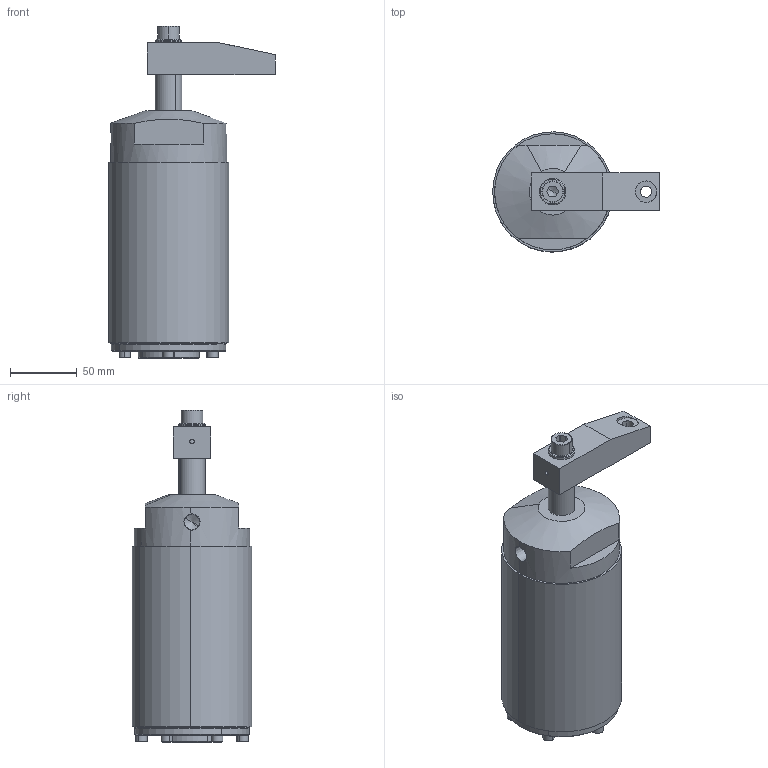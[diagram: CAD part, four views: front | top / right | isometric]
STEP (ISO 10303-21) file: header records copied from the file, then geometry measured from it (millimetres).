
FILE_DESCRIPTION(('CATIA V5 STEP Exchange'),'2;1');
FILE_NAME('\\Kjf-102\kjf_tc\Hydraulic_Clamp\Standard\SWING_CLAMP\SWIVEL SWING CLAMP\AIR SWING\SSDx-6325A\SSDx-6325A.stp','2026-09-01T06:11:36+00:00',('none'),('none'),'CATIA Version 5 Release 19 SP 9 (IN-10)','CATIA V5 STEP AP203','none');
FILE_SCHEMA(('CONFIG_CONTROL_DESIGN'));
Length unit declared in the file: millimetre
Products named in the file (1): SSDx-6325A
Assembly tree (13 placements, depth 2):
  SSDx-6325A
    #58
    #1635
    #1915
    #2707
    #3431
    #4036  x6
    #5003
    #5220
Bounding box: 124.99 x 89.97 x 249.02 mm (x, y, z)
Volume: 1018416.9 mm3; surface area: 124320.1 mm2
Topology: 13 solids, 13 shells, 355 faces, 871 edges, 559 vertices
Faces by surface type: cylinder 144, plane 108, cone 69, torus 34
Entity records: 6111 total; most frequent: CARTESIAN_POINT 1406, ORIENTED_EDGE 990, DIRECTION 765, EDGE_CURVE 495, AXIS2_PLACEMENT_3D 422, VERTEX_POINT 329, CIRCLE 265, EDGE_LOOP 242
